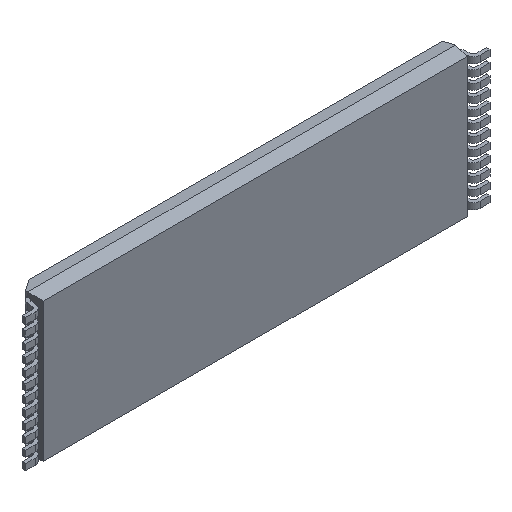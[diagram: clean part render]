
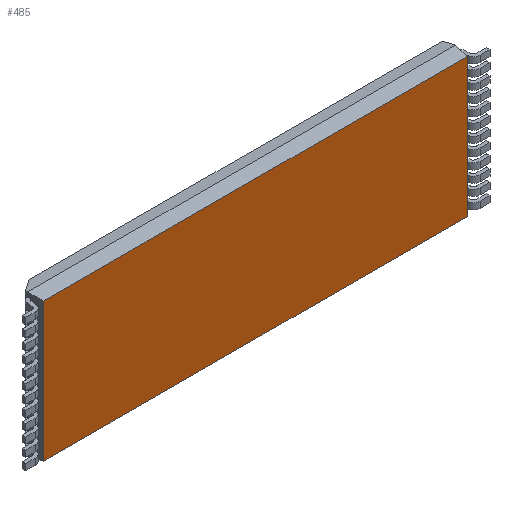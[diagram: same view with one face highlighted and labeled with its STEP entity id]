
A CAD part, isometric view. The second image highlights one B-rep face of the part: STEP entity #485.
In plain terms, the highlighted planar face has unit normal (0, -1, 0).
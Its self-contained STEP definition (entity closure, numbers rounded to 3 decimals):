
#485 = ADVANCED_FACE ( 'NONE', ( #12914 ), #2904, .F. ) ;
#1184 = VERTEX_POINT ( 'NONE', #8053 ) ;
#1417 = VERTEX_POINT ( 'NONE', #8156 ) ;
#1804 = VERTEX_POINT ( 'NONE', #8219 ) ;
#2884 = DIRECTION ( 'NONE',  ( 0., 0., 1. ) ) ;
#2885 = DIRECTION ( 'NONE',  ( 0., 1., 0. ) ) ;
#2903 = CARTESIAN_POINT ( 'NONE',  ( 0., 0.1, 0. ) ) ;
#2904 = PLANE ( 'NONE',  #11286 ) ;
#3840 = VERTEX_POINT ( 'NONE', #8408 ) ;
#4759 = EDGE_LOOP ( 'NONE', ( #5459, #5460, #5472, #5473 ) ) ;
#5459 = ORIENTED_EDGE ( 'NONE', *, *, #13307, .T. ) ;
#5460 = ORIENTED_EDGE ( 'NONE', *, *, #10016, .T. ) ;
#5472 = ORIENTED_EDGE ( 'NONE', *, *, #10449, .T. ) ;
#5473 = ORIENTED_EDGE ( 'NONE', *, *, #10015, .T. ) ;
#6768 = CARTESIAN_POINT ( 'NONE',  ( 9.216, 0.1, 3.1 ) ) ;
#6805 = DIRECTION ( 'NONE',  ( 0., 0., 1. ) ) ;
#8053 = CARTESIAN_POINT ( 'NONE',  ( 9.216, 0.1, -3.016 ) ) ;
#8156 = CARTESIAN_POINT ( 'NONE',  ( -9.216, 0.1, 3.016 ) ) ;
#8219 = CARTESIAN_POINT ( 'NONE',  ( -9.216, 0.1, -3.016 ) ) ;
#8408 = CARTESIAN_POINT ( 'NONE',  ( 9.216, 0.1, 3.016 ) ) ;
#8570 = CARTESIAN_POINT ( 'NONE',  ( 9.3, 0.1, -3.016 ) ) ;
#8580 = CARTESIAN_POINT ( 'NONE',  ( 9.3, 0.1, 3.016 ) ) ;
#8581 = DIRECTION ( 'NONE',  ( -1., 0., 0. ) ) ;
#8582 = DIRECTION ( 'NONE',  ( 1., 0., 0. ) ) ;
#9677 = LINE ( 'NONE', #11943, #9682 ) ;
#9682 = VECTOR ( 'NONE', #11944, 1000. ) ;
#9709 = VECTOR ( 'NONE', #6805, 1000. ) ;
#9710 = LINE ( 'NONE', #6768, #9709 ) ;
#10015 = EDGE_CURVE ( 'NONE', #3840, #1417, #13026, .T. ) ;
#10016 = EDGE_CURVE ( 'NONE', #1804, #1184, #13021, .T. ) ;
#10449 = EDGE_CURVE ( 'NONE', #1184, #3840, #9710, .T. ) ;
#11286 = AXIS2_PLACEMENT_3D ( 'NONE', #2903, #2885, #2884 ) ;
#11943 = CARTESIAN_POINT ( 'NONE',  ( -9.216, 0.1, 3.1 ) ) ;
#11944 = DIRECTION ( 'NONE',  ( 0., 0., -1. ) ) ;
#12914 = FACE_OUTER_BOUND ( 'NONE', #4759, .T. ) ;
#13020 = VECTOR ( 'NONE', #8582, 1000. ) ;
#13021 = LINE ( 'NONE', #8570, #13020 ) ;
#13023 = VECTOR ( 'NONE', #8581, 1000. ) ;
#13026 = LINE ( 'NONE', #8580, #13023 ) ;
#13307 = EDGE_CURVE ( 'NONE', #1417, #1804, #9677, .T. ) ;
